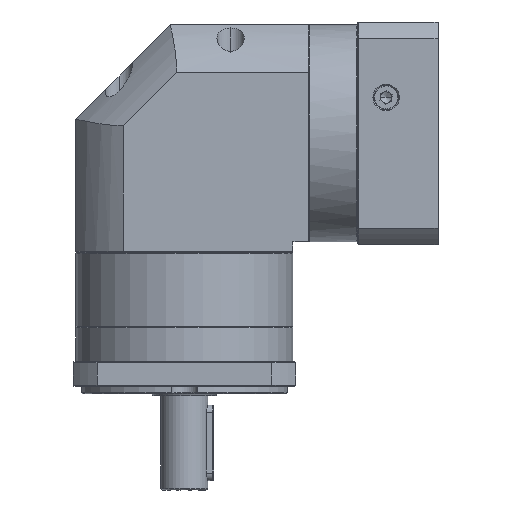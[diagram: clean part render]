
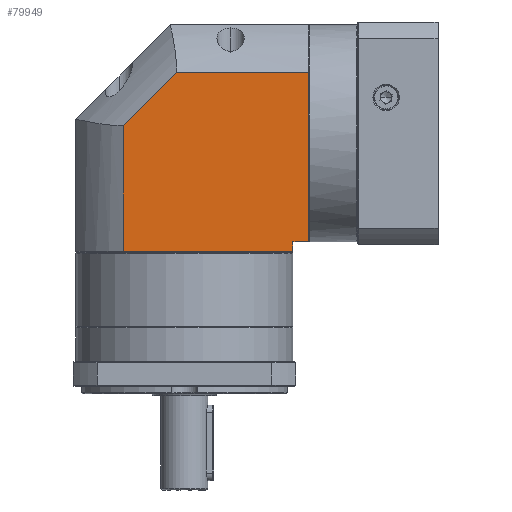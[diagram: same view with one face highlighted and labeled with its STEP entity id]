
A CAD part, front view. The second image highlights one B-rep face of the part: STEP entity #79949.
In plain terms, the highlighted planar face has unit normal (0, -1, 0).
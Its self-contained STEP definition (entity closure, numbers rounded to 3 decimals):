
#1074 = FACE_OUTER_BOUND ( 'NONE', #54689, .T. ) ;
#2623 = VERTEX_POINT ( 'NONE', #8297 ) ;
#4686 = VERTEX_POINT ( 'NONE', #23580 ) ;
#8297 = CARTESIAN_POINT ( 'NONE',  ( 34.511, 31.397, 72.105 ) ) ;
#10555 = CARTESIAN_POINT ( 'NONE',  ( 104.473, 31.397, 72.105 ) ) ;
#20673 = CARTESIAN_POINT ( 'NONE',  ( 6.173, 31.397, -22.795 ) ) ;
#21675 = VERTEX_POINT ( 'NONE', #90037 ) ;
#23580 = CARTESIAN_POINT ( 'NONE',  ( 104.473, 31.397, -17.795 ) ) ;
#23753 = CARTESIAN_POINT ( 'NONE',  ( 104.473, 31.397, -29.295 ) ) ;
#25379 = LINE ( 'NONE', #121451, #38381 ) ;
#29337 = LINE ( 'NONE', #71768, #105425 ) ;
#29611 = VERTEX_POINT ( 'NONE', #103229 ) ;
#30817 = AXIS2_PLACEMENT_3D ( 'NONE', #96348, #107208, #106763 ) ;
#36456 = ORIENTED_EDGE ( 'NONE', *, *, #64046, .F. ) ;
#38381 = VECTOR ( 'NONE', #41403, 1000. ) ;
#38436 = ORIENTED_EDGE ( 'NONE', *, *, #131988, .F. ) ;
#39198 = VECTOR ( 'NONE', #51524, 1000. ) ;
#40263 = CARTESIAN_POINT ( 'NONE',  ( 6.173, 31.397, -29.295 ) ) ;
#41403 = DIRECTION ( 'NONE',  ( 0., 0., -1. ) ) ;
#42609 = ORIENTED_EDGE ( 'NONE', *, *, #101308, .F. ) ;
#48270 = VECTOR ( 'NONE', #119370, 1000. ) ;
#48503 = VERTEX_POINT ( 'NONE', #20673 ) ;
#49804 = LINE ( 'NONE', #77267, #48270 ) ;
#50595 = DIRECTION ( 'NONE',  ( -1., 0., 0. ) ) ;
#51524 = DIRECTION ( 'NONE',  ( 0., 0., 1. ) ) ;
#52010 = ORIENTED_EDGE ( 'NONE', *, *, #110717, .F. ) ;
#54689 = EDGE_LOOP ( 'NONE', ( #42609, #38436, #52010, #127225, #118184, #77936, #36456 ) ) ;
#54904 = DIRECTION ( 'NONE',  ( 0., 0., -1. ) ) ;
#55135 = PLANE ( 'NONE',  #30817 ) ;
#56413 = VECTOR ( 'NONE', #124672, 1000. ) ;
#61667 = DIRECTION ( 'NONE',  ( 0.707, 0., 0.707 ) ) ;
#64046 = EDGE_CURVE ( 'NONE', #29611, #48503, #29337, .T. ) ;
#64468 = LINE ( 'NONE', #101593, #130933 ) ;
#67702 = CARTESIAN_POINT ( 'NONE',  ( 6.173, 31.397, 43.767 ) ) ;
#71768 = CARTESIAN_POINT ( 'NONE',  ( -18.927, 31.397, -22.795 ) ) ;
#77267 = CARTESIAN_POINT ( 'NONE',  ( -18.927, 31.397, 72.105 ) ) ;
#77936 = ORIENTED_EDGE ( 'NONE', *, *, #92927, .F. ) ;
#79949 = ADVANCED_FACE ( 'NONE', ( #1074 ), #55135, .F. ) ;
#81401 = VECTOR ( 'NONE', #54904, 1000. ) ;
#83961 = LINE ( 'NONE', #125133, #56413 ) ;
#88342 = EDGE_CURVE ( 'NONE', #2623, #109848, #49804, .T. ) ;
#90037 = CARTESIAN_POINT ( 'NONE',  ( 96.073, 31.397, -17.795 ) ) ;
#92927 = EDGE_CURVE ( 'NONE', #48503, #119633, #102294, .T. ) ;
#96348 = CARTESIAN_POINT ( 'NONE',  ( -18.927, 31.397, -29.295 ) ) ;
#99677 = EDGE_CURVE ( 'NONE', #119633, #2623, #64468, .T. ) ;
#101308 = EDGE_CURVE ( 'NONE', #21675, #29611, #25379, .T. ) ;
#101593 = CARTESIAN_POINT ( 'NONE',  ( 6.173, 31.397, 43.767 ) ) ;
#102294 = LINE ( 'NONE', #40263, #39198 ) ;
#103229 = CARTESIAN_POINT ( 'NONE',  ( 96.073, 31.397, -22.795 ) ) ;
#105425 = VECTOR ( 'NONE', #50595, 1000. ) ;
#106763 = DIRECTION ( 'NONE',  ( 1., 0., 0. ) ) ;
#107208 = DIRECTION ( 'NONE',  ( 0., 1., 0. ) ) ;
#109848 = VERTEX_POINT ( 'NONE', #10555 ) ;
#110717 = EDGE_CURVE ( 'NONE', #109848, #4686, #123453, .T. ) ;
#118184 = ORIENTED_EDGE ( 'NONE', *, *, #99677, .F. ) ;
#119370 = DIRECTION ( 'NONE',  ( 1., 0., 0. ) ) ;
#119633 = VERTEX_POINT ( 'NONE', #67702 ) ;
#121451 = CARTESIAN_POINT ( 'NONE',  ( 96.073, 31.397, -29.295 ) ) ;
#123453 = LINE ( 'NONE', #23753, #81401 ) ;
#124672 = DIRECTION ( 'NONE',  ( -1., 0., 0. ) ) ;
#125133 = CARTESIAN_POINT ( 'NONE',  ( -18.927, 31.397, -17.795 ) ) ;
#127225 = ORIENTED_EDGE ( 'NONE', *, *, #88342, .F. ) ;
#130933 = VECTOR ( 'NONE', #61667, 1000. ) ;
#131988 = EDGE_CURVE ( 'NONE', #4686, #21675, #83961, .T. ) ;
